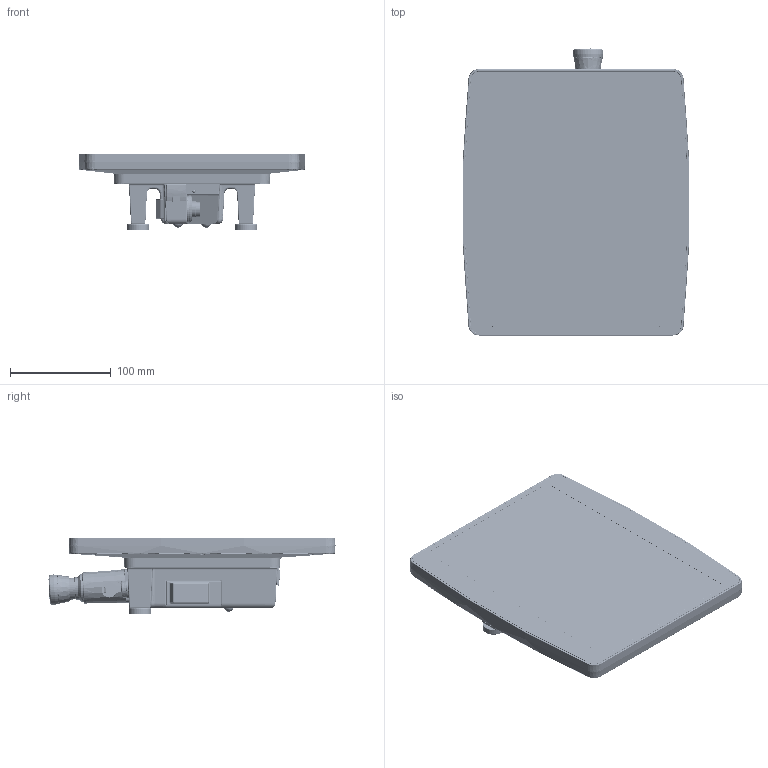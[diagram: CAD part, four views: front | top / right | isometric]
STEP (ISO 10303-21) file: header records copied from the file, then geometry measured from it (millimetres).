
FILE_DESCRIPTION (( 'STEP AP214' ), '1' );
FILE_NAME ('HGT1053 01-245-1053 20210317.STEP', '2021-03-17T16:34:26', ( 'Windows-Benutzer' ), ( '' ), 'SwSTEP 2.0', 'SolidWorks 2020', '' );
FILE_SCHEMA (( 'AUTOMOTIVE_DESIGN' ));
Length unit declared in the file: millimetre
Products named in the file (34): 3030202836-magnet22x6-M4; ZM2021-5064-33 Kleberahmenset HGT HGW kap_Nur Kleberahmen; 7277771815 Hybridleitung Intern HGT105X_7277771815; 7227771142-1 Touch-Displaykombi (Ampire AM-1280800NNTZQW-T20H)_Daten f. Support; HGT1053-KAB-01; Mutter 09-0132-00-12; Mittelteil_10z_HBG-HGT_V2.0_Mittelteil 10z HBG-HGT RAL7024; Hybridleitung intern Dummy; Dummy Lorlin Schl黶selschalter_SRL-5-K-S-2_mit Schl乻sel; HGT1053-KAB-02; HGT1053-KAB-00_Support-Daten; 3030301075 PT-Senkkopfschraube WN1423 KA22x8 Torx_Support-Daten; ZM1745-4201-10 Frontfolie HGT1051; 7297771110 NotAus 130253501_SW0001; ZM1839-4531-10 Notauserhöhung 45 Spritzguss HBG-HGT; ZM1508-2459-10 Rueckwand HBG-HGT_ZM2021-5068-10 Gehеse R…kteil HGT10XX (Nachb.); ZM1312-2666-11 Wandhalterung HGT_Wandhalterung HBG-HGT schwarz; HGT1053 01-245-1053 20210317; ZM1312-2799-10 Steckerhülle innen V01; 3030202676 Mentor Lichtleiter 12598 - LU PLP1-C- 6,4-G; 7297771120 Zustimmtaster HE3B_M2PY; 3030301075 PT-Senkkopfschraube WN1423 KA22x8 Torx; Sechskantmutter EN ISO 4032 - M2 - 6 - A2F; ZM1337-2930-10 Front_10z_HBG-HGT_ZM2023-5085-20 Nacharbeit Front HGT, HGW kap; ZM1312-2798-10 Steckerhülle aussen V_01; 3030201931_Gerätefuß selbstklebend (Ø 10_ Halbkugel); Dummy Kupferklebeband; Stecker 09-0453-00-14; USB-Abdeckung 3030201646-2 (RAL7035 lichtgrau) 3030201647-2 (RAL7024 grafitgrau)_USB-Abdeckung RAL7024; 7227771142-1 Cover Lens Touch-Displaykombi (Ampire AM-1280800NNTZQW-T20H_Daten f. Support; 3030301138 Flachkopfschraube ISO 7045 (DIN 7985) M2 x 6 Torx - 4.8 - TeclackA2F_Support-Daten; HGT Rückteil KPL_Support-Daten HGT1053
Assembly tree (59 placements, depth 4):
  HGT1053 01-245-1053 20210317
    ZM1337-2930-10 Front_10z_HBG-HGT_ZM2023-5085-20 Nacharbeit Front HGT, HGW kap
    ZM2021-5064-33 Kleberahmenset HGT HGW kap_Nur Kleberahmen
    7227771142-1 Touch-Displaykombi (Ampire AM-1280800NNTZQW-T20H)_Daten f. Support
      7227771142-1 Cover Lens Touch-Displaykombi (Ampire AM-1280800NNTZQW-T20H_Daten f. Support
    ZM1745-4201-10 Frontfolie HGT1051
    Mittelteil_10z_HBG-HGT_V2.0_Mittelteil 10z HBG-HGT RAL7024
    HGT Rückteil KPL_Support-Daten HGT1053
      ZM1508-2459-10 Rueckwand HBG-HGT_ZM2021-5068-10 Gehеse R…kteil HGT10XX (Nachb.)
      ZM1312-2666-11 Wandhalterung HGT_Wandhalterung HBG-HGT schwarz
      ZM1312-2799-10 Steckerhülle innen V01
      ZM1312-2798-10 Steckerhülle aussen V_01
      7277771815 Hybridleitung Intern HGT105X_7277771815
        Hybridleitung intern Dummy
        Stecker 09-0453-00-14
        Mutter 09-0132-00-12
      HGT1053-KAB-00_Support-Daten
        7297771110 NotAus 130253501_SW0001
      HGT1053-KAB-01
        HGT1053-KAB-01
        7297771120 Zustimmtaster HE3B_M2PY
      HGT1053-KAB-02
        HGT1053-KAB-02
        Dummy Lorlin Schl黶selschalter_SRL-5-K-S-2_mit Schl乻sel
      3030202676 Mentor Lichtleiter 12598 - LU PLP1-C- 6,4-G
      USB-Abdeckung 3030201646-2 (RAL7035 lichtgrau) 3030201647-2 (RAL7024 grafitgrau)_USB-Abdeckung RAL7024
      ZM1839-4531-10 Notauserhöhung 45 Spritzguss HBG-HGT
      3030202836-magnet22x6-M4  x2
      3030201931_Gerätefuß selbstklebend (Ø 10_ Halbkugel)  x2
      3030301075 PT-Senkkopfschraube WN1423 KA22x8 Torx_Support-Daten  x10
      Sechskantmutter EN ISO 4032 - M2 - 6 - A2F  x4
      3030301138 Flachkopfschraube ISO 7045 (DIN 7985) M2 x 6 Torx - 4.8 - TeclackA2F_Support-Daten  x4
    3030301075 PT-Senkkopfschraube WN1423 KA22x8 Torx_Support-Daten
    3030301075 PT-Senkkopfschraube WN1423 KA22x8 Torx  x9
    Dummy Kupferklebeband
Bounding box: 224.72 x 284.27 x 75.7 mm (x, y, z)
Volume: 412852.5 mm3; surface area: 427492.4 mm2
Topology: 61 solids, 66 shells, 9294 faces, 21789 edges, 12080 vertices
Faces by surface type: cylinder 2620, bspline 2552, plane 1775, torus 1136, cone 687, sphere 524
Entity records: 314045 total; most frequent: CARTESIAN_POINT 127836, ORIENTED_EDGE 39608, DIRECTION 35064, EDGE_CURVE 19804, AXIS2_PLACEMENT_3D 14556, VERTEX_POINT 11291, EDGE_LOOP 9145, ADVANCED_FACE 8784
